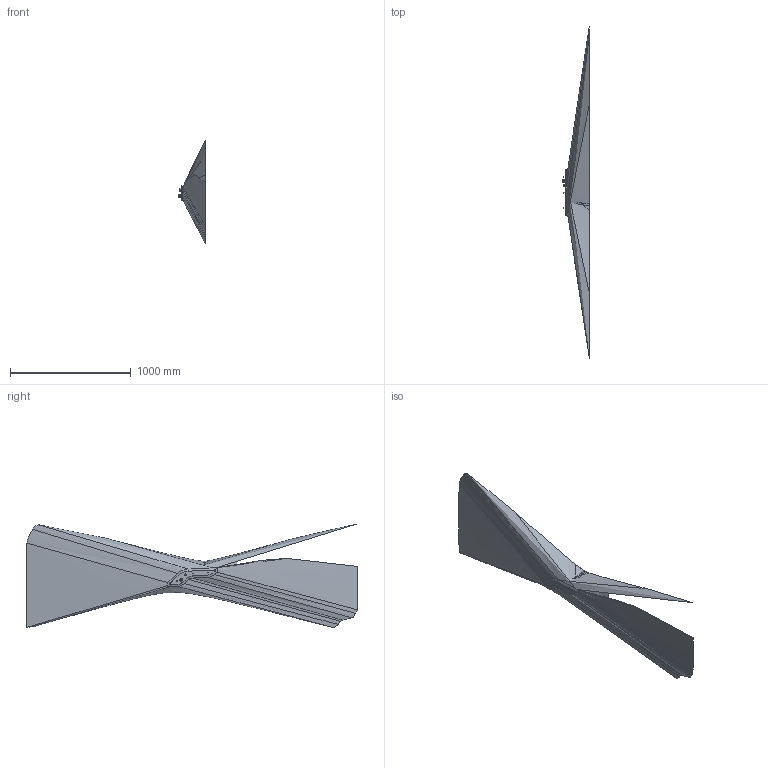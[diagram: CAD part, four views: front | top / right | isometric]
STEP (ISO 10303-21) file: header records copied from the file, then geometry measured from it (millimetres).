
FILE_DESCRIPTION(('CATIA V5 STEP Exchange','CAx-IF Rec.Pracs.--- Model Styling and Organization---1.5--- 2016-08-15','CAx-IF Rec.Pracs.---Supplemental Geometry---1.0---2011-11-01','CAx-IF Rec.Pracs.--- Composite Materials ---1.1---2010-07-15'),'2;1');
FILE_NAME('E:\tmp\ddx\2011206\HELLA_3D_data_tail-stop_light_SHAPELINE_style_wing_013-399.stp','2022-01-18T07:40:12+00:00',('none'),('none'),'CATIA Version 5-6 Release 2020 SP3 HF9','CATIA V5 STEP AP214 Edition 3 v2','none');
FILE_SCHEMA(('AUTOMOTIVE_DESIGN { 1 0 10303 214 3 1 1 1 }'));
Products named in the file (1): 10002759147_D10_001
Bounding box: 219.1 x 2746.95 x 859.07 mm (x, y, z)
Volume: 360470.8 mm3; surface area: 2310099.8 mm2
Topology: 1 solids, 5 shells, 1587 faces, 3774 edges, 2192 vertices
Faces by surface type: bspline 705, cylinder 389, plane 303, torus 78, cone 70, extrusion 24, sphere 18
Entity records: 85078 total; most frequent: CARTESIAN_POINT 55907, ORIENTED_EDGE 7407, EDGE_CURVE 3740, DIRECTION 3218, VERTEX_POINT 2192, B_SPLINE_CURVE_WITH_KNOTS 2120, EDGE_LOOP 1634, ADVANCED_FACE 1587
